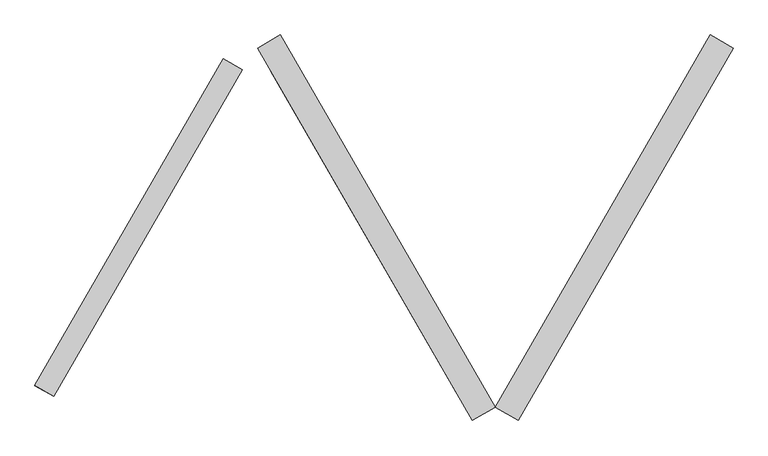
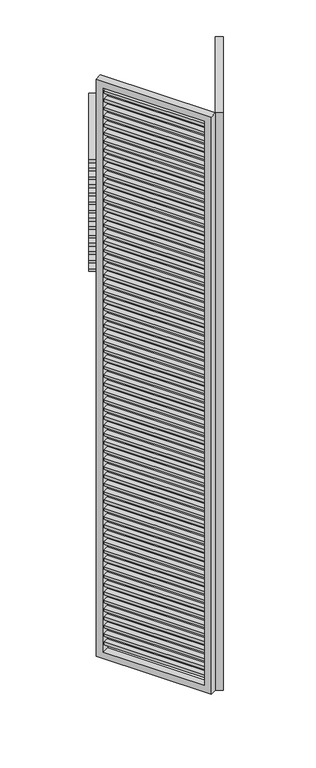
"""IFC4 building model written with IfcOpenShell, lengths in millimetres: proxy geometry, Renson_Amani_Loggia_Plano_Folding : Renson_Amani_Loggia_Plano_Folding."""

from ifc_helpers import new_model, si_unit, frame, origin, place, context, project, spatial, polyline, outline, extrude, source, transform, mapped, element, save


def generic_models_d322cddd(model_context):
    return source(origin(), model_context, "Body", "SweptSolid", [
        extrude(outline(polyline([(1386.6721051, 546.5254963), (1415.2509434, 530.0254963), (1130.2509434, 36.3910162), (1101.6721051, 52.8910162), (1386.6721051, 546.5254963)])), frame((0.0, 0.0, 3127.0), z_axis=(0.0, 0.0, 1.0), x_axis=(1.0, 0.0, 0.0)), (0.0, 0.0, 1.0), 16.0),
        extrude(outline(polyline([(1386.6721051, 546.5254963), (1415.2509434, 530.0254963), (1130.2509434, 36.3910162), (1101.6721051, 52.8910162), (1386.6721051, 546.5254963)])), frame((0.0, 0.0, 3077.0), z_axis=(0.0, 0.0, 1.0), x_axis=(1.0, 0.0, 0.0)), (0.0, 0.0, 1.0), 16.0),
        extrude(outline(polyline([(1386.6721051, 546.5254963), (1415.2509434, 530.0254963), (1130.2509434, 36.3910162), (1101.6721051, 52.8910162), (1386.6721051, 546.5254963)])), frame((0.0, 0.0, 3027.0), z_axis=(0.0, 0.0, 1.0), x_axis=(1.0, 0.0, 0.0)), (0.0, 0.0, 1.0), 16.0),
        extrude(outline(polyline([(1386.6721051, 546.5254963), (1415.2509434, 530.0254963), (1130.2509434, 36.3910162), (1101.6721051, 52.8910162), (1386.6721051, 546.5254963)])), frame((0.0, 0.0, 2977.0), z_axis=(0.0, 0.0, 1.0), x_axis=(1.0, 0.0, 0.0)), (0.0, 0.0, 1.0), 16.0),
        extrude(outline(polyline([(1386.6721051, 546.5254963), (1415.2509434, 530.0254963), (1130.2509434, 36.3910162), (1101.6721051, 52.8910162), (1386.6721051, 546.5254963)])), frame((0.0, 0.0, 2927.0), z_axis=(0.0, 0.0, 1.0), x_axis=(1.0, 0.0, 0.0)), (0.0, 0.0, 1.0), 16.0),
        extrude(outline(polyline([(1386.6721051, 546.5254963), (1415.2509434, 530.0254963), (1130.2509434, 36.3910162), (1101.6721051, 52.8910162), (1386.6721051, 546.5254963)])), frame((0.0, 0.0, 2877.0), z_axis=(0.0, 0.0, 1.0), x_axis=(1.0, 0.0, 0.0)), (0.0, 0.0, 1.0), 16.0),
        extrude(outline(polyline([(1386.6721051, 546.5254963), (1415.2509434, 530.0254963), (1130.2509434, 36.3910162), (1101.6721051, 52.8910162), (1386.6721051, 546.5254963)])), frame((0.0, 0.0, 2827.0), z_axis=(0.0, 0.0, 1.0), x_axis=(1.0, 0.0, 0.0)), (0.0, 0.0, 1.0), 16.0),
        extrude(outline(polyline([(1386.6721051, 546.5254963), (1415.2509434, 530.0254963), (1130.2509434, 36.3910162), (1101.6721051, 52.8910162), (1386.6721051, 546.5254963)])), frame((0.0, 0.0, 2777.0), z_axis=(0.0, 0.0, 1.0), x_axis=(1.0, 0.0, 0.0)), (0.0, 0.0, 1.0), 16.0),
        extrude(outline(polyline([(1386.6721051, 546.5254963), (1415.2509434, 530.0254963), (1130.2509434, 36.3910162), (1101.6721051, 52.8910162), (1386.6721051, 546.5254963)])), frame((0.0, 0.0, 2727.0), z_axis=(0.0, 0.0, 1.0), x_axis=(1.0, 0.0, 0.0)), (0.0, 0.0, 1.0), 16.0),
        extrude(outline(polyline([(1386.6721051, 546.5254963), (1415.2509434, 530.0254963), (1130.2509434, 36.3910162), (1101.6721051, 52.8910162), (1386.6721051, 546.5254963)])), frame((0.0, 0.0, 2677.0), z_axis=(0.0, 0.0, 1.0), x_axis=(1.0, 0.0, 0.0)), (0.0, 0.0, 1.0), 16.0),
        extrude(outline(polyline([(1386.6721051, 546.5254963), (1415.2509434, 530.0254963), (1130.2509434, 36.3910162), (1101.6721051, 52.8910162), (1386.6721051, 546.5254963)])), frame((0.0, 0.0, 2627.0), z_axis=(0.0, 0.0, 1.0), x_axis=(1.0, 0.0, 0.0)), (0.0, 0.0, 1.0), 16.0),
        extrude(outline(polyline([(1386.6721051, 546.5254963), (1415.2509434, 530.0254963), (1130.2509434, 36.3910162), (1101.6721051, 52.8910162), (1386.6721051, 546.5254963)])), frame((0.0, 0.0, 2577.0), z_axis=(0.0, 0.0, 1.0), x_axis=(1.0, 0.0, 0.0)), (0.0, 0.0, 1.0), 16.0),
        extrude(outline(polyline([(1386.6721051, 546.5254963), (1415.2509434, 530.0254963), (1130.2509434, 36.3910162), (1101.6721051, 52.8910162), (1386.6721051, 546.5254963)])), frame((0.0, 0.0, 2527.0), z_axis=(0.0, 0.0, 1.0), x_axis=(1.0, 0.0, 0.0)), (0.0, 0.0, 1.0), 16.0),
        extrude(outline(polyline([(1386.6721051, 546.5254963), (1415.2509434, 530.0254963), (1130.2509434, 36.3910162), (1101.6721051, 52.8910162), (1386.6721051, 546.5254963)])), frame((0.0, 0.0, 2477.0), z_axis=(0.0, 0.0, 1.0), x_axis=(1.0, 0.0, 0.0)), (0.0, 0.0, 1.0), 16.0),
        extrude(outline(polyline([(1386.6721051, 546.5254963), (1415.2509434, 530.0254963), (1130.2509434, 36.3910162), (1101.6721051, 52.8910162), (1386.6721051, 546.5254963)])), frame((0.0, 0.0, 2427.0), z_axis=(0.0, 0.0, 1.0), x_axis=(1.0, 0.0, 0.0)), (0.0, 0.0, 1.0), 16.0),
        extrude(outline(polyline([(1386.6721051, 546.5254963), (1415.2509434, 530.0254963), (1130.2509434, 36.3910162), (1101.6721051, 52.8910162), (1386.6721051, 546.5254963)])), frame((0.0, 0.0, 2377.0), z_axis=(0.0, 0.0, 1.0), x_axis=(1.0, 0.0, 0.0)), (0.0, 0.0, 1.0), 16.0),
        extrude(outline(polyline([(1386.6721051, 546.5254963), (1415.2509434, 530.0254963), (1130.2509434, 36.3910162), (1101.6721051, 52.8910162), (1386.6721051, 546.5254963)])), frame((0.0, 0.0, 2327.0), z_axis=(0.0, 0.0, 1.0), x_axis=(1.0, 0.0, 0.0)), (0.0, 0.0, 1.0), 16.0),
        extrude(outline(polyline([(1386.6721051, 546.5254963), (1415.2509434, 530.0254963), (1130.2509434, 36.3910162), (1101.6721051, 52.8910162), (1386.6721051, 546.5254963)])), frame((0.0, 0.0, 2277.0), z_axis=(0.0, 0.0, 1.0), x_axis=(1.0, 0.0, 0.0)), (0.0, 0.0, 1.0), 16.0),
        extrude(outline(polyline([(1386.6721051, 546.5254963), (1415.2509434, 530.0254963), (1130.2509434, 36.3910162), (1101.6721051, 52.8910162), (1386.6721051, 546.5254963)])), frame((0.0, 0.0, 2227.0), z_axis=(0.0, 0.0, 1.0), x_axis=(1.0, 0.0, 0.0)), (0.0, 0.0, 1.0), 16.0),
        extrude(outline(polyline([(1386.6721051, 546.5254963), (1415.2509434, 530.0254963), (1130.2509434, 36.3910162), (1101.6721051, 52.8910162), (1386.6721051, 546.5254963)])), frame((0.0, 0.0, 2177.0), z_axis=(0.0, 0.0, 1.0), x_axis=(1.0, 0.0, 0.0)), (0.0, 0.0, 1.0), 16.0),
        extrude(outline(polyline([(1386.6721051, 546.5254963), (1415.2509434, 530.0254963), (1130.2509434, 36.3910162), (1101.6721051, 52.8910162), (1386.6721051, 546.5254963)])), frame((0.0, 0.0, 2127.0), z_axis=(0.0, 0.0, 1.0), x_axis=(1.0, 0.0, 0.0)), (0.0, 0.0, 1.0), 16.0),
        extrude(outline(polyline([(1386.6721051, 546.5254963), (1415.2509434, 530.0254963), (1130.2509434, 36.3910162), (1101.6721051, 52.8910162), (1386.6721051, 546.5254963)])), frame((0.0, 0.0, 2077.0), z_axis=(0.0, 0.0, 1.0), x_axis=(1.0, 0.0, 0.0)), (0.0, 0.0, 1.0), 16.0),
        extrude(outline(polyline([(1386.6721051, 546.5254963), (1415.2509434, 530.0254963), (1130.2509434, 36.3910162), (1101.6721051, 52.8910162), (1386.6721051, 546.5254963)])), frame((0.0, 0.0, 2027.0), z_axis=(0.0, 0.0, 1.0), x_axis=(1.0, 0.0, 0.0)), (0.0, 0.0, 1.0), 16.0),
        extrude(outline(polyline([(1386.6721051, 546.5254963), (1415.2509434, 530.0254963), (1130.2509434, 36.3910162), (1101.6721051, 52.8910162), (1386.6721051, 546.5254963)])), frame((0.0, 0.0, 1977.0), z_axis=(0.0, 0.0, 1.0), x_axis=(1.0, 0.0, 0.0)), (0.0, 0.0, 1.0), 16.0),
        extrude(outline(polyline([(1386.6721051, 546.5254963), (1415.2509434, 530.0254963), (1130.2509434, 36.3910162), (1101.6721051, 52.8910162), (1386.6721051, 546.5254963)])), frame((0.0, 0.0, 1927.0), z_axis=(0.0, 0.0, 1.0), x_axis=(1.0, 0.0, 0.0)), (0.0, 0.0, 1.0), 16.0),
        extrude(outline(polyline([(1386.6721051, 546.5254963), (1415.2509434, 530.0254963), (1130.2509434, 36.3910162), (1101.6721051, 52.8910162), (1386.6721051, 546.5254963)])), frame((0.0, 0.0, 1877.0), z_axis=(0.0, 0.0, 1.0), x_axis=(1.0, 0.0, 0.0)), (0.0, 0.0, 1.0), 16.0),
        extrude(outline(polyline([(1386.6721051, 546.5254963), (1415.2509434, 530.0254963), (1130.2509434, 36.3910162), (1101.6721051, 52.8910162), (1386.6721051, 546.5254963)])), frame((0.0, 0.0, 1827.0), z_axis=(0.0, 0.0, 1.0), x_axis=(1.0, 0.0, 0.0)), (0.0, 0.0, 1.0), 16.0),
        extrude(outline(polyline([(1386.6721051, 546.5254963), (1415.2509434, 530.0254963), (1130.2509434, 36.3910162), (1101.6721051, 52.8910162), (1386.6721051, 546.5254963)])), frame((0.0, 0.0, 1777.0), z_axis=(0.0, 0.0, 1.0), x_axis=(1.0, 0.0, 0.0)), (0.0, 0.0, 1.0), 16.0),
        extrude(outline(polyline([(1386.6721051, 546.5254963), (1415.2509434, 530.0254963), (1130.2509434, 36.3910162), (1101.6721051, 52.8910162), (1386.6721051, 546.5254963)])), frame((0.0, 0.0, 1727.0), z_axis=(0.0, 0.0, 1.0), x_axis=(1.0, 0.0, 0.0)), (0.0, 0.0, 1.0), 16.0),
        extrude(outline(polyline([(1386.6721051, 546.5254963), (1415.2509434, 530.0254963), (1130.2509434, 36.3910162), (1101.6721051, 52.8910162), (1386.6721051, 546.5254963)])), frame((0.0, 0.0, 1677.0), z_axis=(0.0, 0.0, 1.0), x_axis=(1.0, 0.0, 0.0)), (0.0, 0.0, 1.0), 16.0),
        extrude(outline(polyline([(1386.6721051, 546.5254963), (1415.2509434, 530.0254963), (1130.2509434, 36.3910162), (1101.6721051, 52.8910162), (1386.6721051, 546.5254963)])), frame((0.0, 0.0, 1627.0), z_axis=(0.0, 0.0, 1.0), x_axis=(1.0, 0.0, 0.0)), (0.0, 0.0, 1.0), 16.0),
        extrude(outline(polyline([(1386.6721051, 546.5254963), (1415.2509434, 530.0254963), (1130.2509434, 36.3910162), (1101.6721051, 52.8910162), (1386.6721051, 546.5254963)])), frame((0.0, 0.0, 1577.0), z_axis=(0.0, 0.0, 1.0), x_axis=(1.0, 0.0, 0.0)), (0.0, 0.0, 1.0), 16.0),
        extrude(outline(polyline([(1386.6721051, 546.5254963), (1415.2509434, 530.0254963), (1130.2509434, 36.3910162), (1101.6721051, 52.8910162), (1386.6721051, 546.5254963)])), frame((0.0, 0.0, 1527.0), z_axis=(0.0, 0.0, 1.0), x_axis=(1.0, 0.0, 0.0)), (0.0, 0.0, 1.0), 16.0),
        extrude(outline(polyline([(1386.6721051, 546.5254963), (1415.2509434, 530.0254963), (1130.2509434, 36.3910162), (1101.6721051, 52.8910162), (1386.6721051, 546.5254963)])), frame((0.0, 0.0, 1477.0), z_axis=(0.0, 0.0, 1.0), x_axis=(1.0, 0.0, 0.0)), (0.0, 0.0, 1.0), 16.0),
        extrude(outline(polyline([(1386.6721051, 546.5254963), (1415.2509434, 530.0254963), (1130.2509434, 36.3910162), (1101.6721051, 52.8910162), (1386.6721051, 546.5254963)])), frame((0.0, 0.0, 1427.0), z_axis=(0.0, 0.0, 1.0), x_axis=(1.0, 0.0, 0.0)), (0.0, 0.0, 1.0), 16.0),
        extrude(outline(polyline([(1386.6721051, 546.5254963), (1415.2509434, 530.0254963), (1130.2509434, 36.3910162), (1101.6721051, 52.8910162), (1386.6721051, 546.5254963)])), frame((0.0, 0.0, 1377.0), z_axis=(0.0, 0.0, 1.0), x_axis=(1.0, 0.0, 0.0)), (0.0, 0.0, 1.0), 16.0),
        extrude(outline(polyline([(1386.6721051, 546.5254963), (1415.2509434, 530.0254963), (1130.2509434, 36.3910162), (1101.6721051, 52.8910162), (1386.6721051, 546.5254963)])), frame((0.0, 0.0, 1327.0), z_axis=(0.0, 0.0, 1.0), x_axis=(1.0, 0.0, 0.0)), (0.0, 0.0, 1.0), 16.0),
        extrude(outline(polyline([(1386.6721051, 546.5254963), (1415.2509434, 530.0254963), (1130.2509434, 36.3910162), (1101.6721051, 52.8910162), (1386.6721051, 546.5254963)])), frame((0.0, 0.0, 1277.0), z_axis=(0.0, 0.0, 1.0), x_axis=(1.0, 0.0, 0.0)), (0.0, 0.0, 1.0), 16.0),
        extrude(outline(polyline([(1386.6721051, 546.5254963), (1415.2509434, 530.0254963), (1130.2509434, 36.3910162), (1101.6721051, 52.8910162), (1386.6721051, 546.5254963)])), frame((0.0, 0.0, 1227.0), z_axis=(0.0, 0.0, 1.0), x_axis=(1.0, 0.0, 0.0)), (0.0, 0.0, 1.0), 16.0),
        extrude(outline(polyline([(1386.6721051, 546.5254963), (1415.2509434, 530.0254963), (1130.2509434, 36.3910162), (1101.6721051, 52.8910162), (1386.6721051, 546.5254963)])), frame((0.0, 0.0, 1177.0), z_axis=(0.0, 0.0, 1.0), x_axis=(1.0, 0.0, 0.0)), (0.0, 0.0, 1.0), 16.0),
        extrude(outline(polyline([(1386.6721051, 546.5254963), (1415.2509434, 530.0254963), (1130.2509434, 36.3910162), (1101.6721051, 52.8910162), (1386.6721051, 546.5254963)])), frame((0.0, 0.0, 1127.0), z_axis=(0.0, 0.0, 1.0), x_axis=(1.0, 0.0, 0.0)), (0.0, 0.0, 1.0), 16.0),
        extrude(outline(polyline([(1386.6721051, 546.5254963), (1415.2509434, 530.0254963), (1130.2509434, 36.3910162), (1101.6721051, 52.8910162), (1386.6721051, 546.5254963)])), frame((0.0, 0.0, 1077.0), z_axis=(0.0, 0.0, 1.0), x_axis=(1.0, 0.0, 0.0)), (0.0, 0.0, 1.0), 16.0),
        extrude(outline(polyline([(1386.6721051, 546.5254963), (1415.2509434, 530.0254963), (1130.2509434, 36.3910162), (1101.6721051, 52.8910162), (1386.6721051, 546.5254963)])), frame((0.0, 0.0, 1027.0), z_axis=(0.0, 0.0, 1.0), x_axis=(1.0, 0.0, 0.0)), (0.0, 0.0, 1.0), 16.0),
        extrude(outline(polyline([(1386.6721051, 546.5254963), (1415.2509434, 530.0254963), (1130.2509434, 36.3910162), (1101.6721051, 52.8910162), (1386.6721051, 546.5254963)])), frame((0.0, 0.0, 977.0), z_axis=(0.0, 0.0, 1.0), x_axis=(1.0, 0.0, 0.0)), (0.0, 0.0, 1.0), 16.0),
        extrude(outline(polyline([(1386.6721051, 546.5254963), (1415.2509434, 530.0254963), (1130.2509434, 36.3910162), (1101.6721051, 52.8910162), (1386.6721051, 546.5254963)])), frame((0.0, 0.0, 927.0), z_axis=(0.0, 0.0, 1.0), x_axis=(1.0, 0.0, 0.0)), (0.0, 0.0, 1.0), 16.0),
        extrude(outline(polyline([(1386.6721051, 546.5254963), (1415.2509434, 530.0254963), (1130.2509434, 36.3910162), (1101.6721051, 52.8910162), (1386.6721051, 546.5254963)])), frame((0.0, 0.0, 877.0), z_axis=(0.0, 0.0, 1.0), x_axis=(1.0, 0.0, 0.0)), (0.0, 0.0, 1.0), 16.0),
        extrude(outline(polyline([(1386.6721051, 546.5254963), (1415.2509434, 530.0254963), (1130.2509434, 36.3910162), (1101.6721051, 52.8910162), (1386.6721051, 546.5254963)])), frame((0.0, 0.0, 827.0), z_axis=(0.0, 0.0, 1.0), x_axis=(1.0, 0.0, 0.0)), (0.0, 0.0, 1.0), 16.0),
        extrude(outline(polyline([(1386.6721051, 546.5254963), (1415.2509434, 530.0254963), (1130.2509434, 36.3910162), (1101.6721051, 52.8910162), (1386.6721051, 546.5254963)])), frame((0.0, 0.0, 777.0), z_axis=(0.0, 0.0, 1.0), x_axis=(1.0, 0.0, 0.0)), (0.0, 0.0, 1.0), 16.0),
        extrude(outline(polyline([(1386.6721051, 546.5254963), (1415.2509434, 530.0254963), (1130.2509434, 36.3910162), (1101.6721051, 52.8910162), (1386.6721051, 546.5254963)])), frame((0.0, 0.0, 727.0), z_axis=(0.0, 0.0, 1.0), x_axis=(1.0, 0.0, 0.0)), (0.0, 0.0, 1.0), 16.0),
        extrude(outline(polyline([(1386.6721051, 546.5254963), (1415.2509434, 530.0254963), (1130.2509434, 36.3910162), (1101.6721051, 52.8910162), (1386.6721051, 546.5254963)])), frame((0.0, 0.0, 677.0), z_axis=(0.0, 0.0, 1.0), x_axis=(1.0, 0.0, 0.0)), (0.0, 0.0, 1.0), 16.0),
        extrude(outline(polyline([(1386.6721051, 546.5254963), (1415.2509434, 530.0254963), (1130.2509434, 36.3910162), (1101.6721051, 52.8910162), (1386.6721051, 546.5254963)])), frame((0.0, 0.0, 627.0), z_axis=(0.0, 0.0, 1.0), x_axis=(1.0, 0.0, 0.0)), (0.0, 0.0, 1.0), 16.0),
        extrude(outline(polyline([(1386.6721051, 546.5254963), (1415.2509434, 530.0254963), (1130.2509434, 36.3910162), (1101.6721051, 52.8910162), (1386.6721051, 546.5254963)])), frame((0.0, 0.0, 577.0), z_axis=(0.0, 0.0, 1.0), x_axis=(1.0, 0.0, 0.0)), (0.0, 0.0, 1.0), 16.0),
        extrude(outline(polyline([(1386.6721051, 546.5254963), (1415.2509434, 530.0254963), (1130.2509434, 36.3910162), (1101.6721051, 52.8910162), (1386.6721051, 546.5254963)])), frame((0.0, 0.0, 527.0), z_axis=(0.0, 0.0, 1.0), x_axis=(1.0, 0.0, 0.0)), (0.0, 0.0, 1.0), 16.0),
        extrude(outline(polyline([(1386.6721051, 546.5254963), (1415.2509434, 530.0254963), (1130.2509434, 36.3910162), (1101.6721051, 52.8910162), (1386.6721051, 546.5254963)])), frame((0.0, 0.0, 477.0), z_axis=(0.0, 0.0, 1.0), x_axis=(1.0, 0.0, 0.0)), (0.0, 0.0, 1.0), 16.0),
        extrude(outline(polyline([(1386.6721051, 546.5254963), (1415.2509434, 530.0254963), (1130.2509434, 36.3910162), (1101.6721051, 52.8910162), (1386.6721051, 546.5254963)])), frame((0.0, 0.0, 427.0), z_axis=(0.0, 0.0, 1.0), x_axis=(1.0, 0.0, 0.0)), (0.0, 0.0, 1.0), 16.0),
        extrude(outline(polyline([(1386.6721051, 546.5254963), (1415.2509434, 530.0254963), (1130.2509434, 36.3910162), (1101.6721051, 52.8910162), (1386.6721051, 546.5254963)])), frame((0.0, 0.0, 377.0), z_axis=(0.0, 0.0, 1.0), x_axis=(1.0, 0.0, 0.0)), (0.0, 0.0, 1.0), 16.0),
        extrude(outline(polyline([(1386.6721051, 546.5254963), (1415.2509434, 530.0254963), (1130.2509434, 36.3910162), (1101.6721051, 52.8910162), (1386.6721051, 546.5254963)])), frame((0.0, 0.0, 327.0), z_axis=(0.0, 0.0, 1.0), x_axis=(1.0, 0.0, 0.0)), (0.0, 0.0, 1.0), 16.0),
        extrude(outline(polyline([(1386.6721051, 546.5254963), (1415.2509434, 530.0254963), (1130.2509434, 36.3910162), (1101.6721051, 52.8910162), (1386.6721051, 546.5254963)])), frame((0.0, 0.0, 277.0), z_axis=(0.0, 0.0, 1.0), x_axis=(1.0, 0.0, 0.0)), (0.0, 0.0, 1.0), 16.0),
        extrude(outline(polyline([(1386.6721051, 546.5254963), (1415.2509434, 530.0254963), (1130.2509434, 36.3910162), (1101.6721051, 52.8910162), (1386.6721051, 546.5254963)])), frame((0.0, 0.0, 227.0), z_axis=(0.0, 0.0, 1.0), x_axis=(1.0, 0.0, 0.0)), (0.0, 0.0, 1.0), 16.0),
        extrude(outline(polyline([(1386.6721051, 546.5254963), (1415.2509434, 530.0254963), (1130.2509434, 36.3910162), (1101.6721051, 52.8910162), (1386.6721051, 546.5254963)])), frame((0.0, 0.0, 177.0), z_axis=(0.0, 0.0, 1.0), x_axis=(1.0, 0.0, 0.0)), (0.0, 0.0, 1.0), 16.0),
        extrude(outline(polyline([(1386.6721051, 546.5254963), (1415.2509434, 530.0254963), (1130.2509434, 36.3910162), (1101.6721051, 52.8910162), (1386.6721051, 546.5254963)])), frame((0.0, 0.0, 127.0), z_axis=(0.0, 0.0, 1.0), x_axis=(1.0, 0.0, 0.0)), (0.0, 0.0, 1.0), 16.0),
        extrude(outline(polyline([(3415.0, -40.0), (-40.0, -40.0), (-40.0, 610.0), (3415.0, 610.0), (3415.0, -40.0)]), holes=[polyline([(3375.0, 570.0), (0.0, 570.0), (0.0, 0.0), (3375.0, 0.0), (3375.0, 570.0)])]), frame((1133.2820323, 34.6410162, 85.0), z_axis=(-0.8660254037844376, 0.5000000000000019, 0.0), x_axis=(0.0, 0.0, 1.0)), (0.0, 0.0, 1.0), 40.0),
        extrude(outline(polyline([(1055.8919595, 52.8910162), (1027.3131212, 36.3910162), (742.3131212, 530.0254963), (770.8919595, 546.5254963), (1055.8919595, 52.8910162)])), frame((0.0, 0.0, 3427.0), z_axis=(0.0, 0.0, 1.0), x_axis=(1.0, 0.0, 0.0)), (0.0, 0.0, 1.0), 16.0),
        extrude(outline(polyline([(1055.8919595, 52.8910162), (1027.3131212, 36.3910162), (742.3131212, 530.0254963), (770.8919595, 546.5254963), (1055.8919595, 52.8910162)])), frame((0.0, 0.0, 3377.0), z_axis=(0.0, 0.0, 1.0), x_axis=(1.0, 0.0, 0.0)), (0.0, 0.0, 1.0), 16.0),
        extrude(outline(polyline([(1055.8919595, 52.8910162), (1027.3131212, 36.3910162), (742.3131212, 530.0254963), (770.8919595, 546.5254963), (1055.8919595, 52.8910162)])), frame((0.0, 0.0, 3327.0), z_axis=(0.0, 0.0, 1.0), x_axis=(1.0, 0.0, 0.0)), (0.0, 0.0, 1.0), 16.0),
        extrude(outline(polyline([(1055.8919595, 52.8910162), (1027.3131212, 36.3910162), (742.3131212, 530.0254963), (770.8919595, 546.5254963), (1055.8919595, 52.8910162)])), frame((0.0, 0.0, 3277.0), z_axis=(0.0, 0.0, 1.0), x_axis=(1.0, 0.0, 0.0)), (0.0, 0.0, 1.0), 16.0),
        extrude(outline(polyline([(1055.8919595, 52.8910162), (1027.3131212, 36.3910162), (742.3131212, 530.0254963), (770.8919595, 546.5254963), (1055.8919595, 52.8910162)])), frame((0.0, 0.0, 3227.0), z_axis=(0.0, 0.0, 1.0), x_axis=(1.0, 0.0, 0.0)), (0.0, 0.0, 1.0), 16.0),
        extrude(outline(polyline([(1055.8919595, 52.8910162), (1027.3131212, 36.3910162), (742.3131212, 530.0254963), (770.8919595, 546.5254963), (1055.8919595, 52.8910162)])), frame((0.0, 0.0, 3177.0), z_axis=(0.0, 0.0, 1.0), x_axis=(1.0, 0.0, 0.0)), (0.0, 0.0, 1.0), 16.0),
        extrude(outline(polyline([(1055.8919595, 52.8910162), (1027.3131212, 36.3910162), (742.3131212, 530.0254963), (770.8919595, 546.5254963), (1055.8919595, 52.8910162)])), frame((0.0, 0.0, 3127.0), z_axis=(0.0, 0.0, 1.0), x_axis=(1.0, 0.0, 0.0)), (0.0, 0.0, 1.0), 16.0),
        extrude(outline(polyline([(1055.8919595, 52.8910162), (1027.3131212, 36.3910162), (742.3131212, 530.0254963), (770.8919595, 546.5254963), (1055.8919595, 52.8910162)])), frame((0.0, 0.0, 3077.0), z_axis=(0.0, 0.0, 1.0), x_axis=(1.0, 0.0, 0.0)), (0.0, 0.0, 1.0), 16.0),
        extrude(outline(polyline([(1055.8919595, 52.8910162), (1027.3131212, 36.3910162), (742.3131212, 530.0254963), (770.8919595, 546.5254963), (1055.8919595, 52.8910162)])), frame((0.0, 0.0, 3027.0), z_axis=(0.0, 0.0, 1.0), x_axis=(1.0, 0.0, 0.0)), (0.0, 0.0, 1.0), 16.0),
        extrude(outline(polyline([(1055.8919595, 52.8910162), (1027.3131212, 36.3910162), (742.3131212, 530.0254963), (770.8919595, 546.5254963), (1055.8919595, 52.8910162)])), frame((0.0, 0.0, 2977.0), z_axis=(0.0, 0.0, 1.0), x_axis=(1.0, 0.0, 0.0)), (0.0, 0.0, 1.0), 16.0),
        extrude(outline(polyline([(1055.8919595, 52.8910162), (1027.3131212, 36.3910162), (742.3131212, 530.0254963), (770.8919595, 546.5254963), (1055.8919595, 52.8910162)])), frame((0.0, 0.0, 2927.0), z_axis=(0.0, 0.0, 1.0), x_axis=(1.0, 0.0, 0.0)), (0.0, 0.0, 1.0), 16.0),
        extrude(outline(polyline([(1055.8919595, 52.8910162), (1027.3131212, 36.3910162), (742.3131212, 530.0254963), (770.8919595, 546.5254963), (1055.8919595, 52.8910162)])), frame((0.0, 0.0, 2877.0), z_axis=(0.0, 0.0, 1.0), x_axis=(1.0, 0.0, 0.0)), (0.0, 0.0, 1.0), 16.0),
        extrude(outline(polyline([(1055.8919595, 52.8910162), (1027.3131212, 36.3910162), (742.3131212, 530.0254963), (770.8919595, 546.5254963), (1055.8919595, 52.8910162)])), frame((0.0, 0.0, 2827.0), z_axis=(0.0, 0.0, 1.0), x_axis=(1.0, 0.0, 0.0)), (0.0, 0.0, 1.0), 16.0),
        extrude(outline(polyline([(1055.8919595, 52.8910162), (1027.3131212, 36.3910162), (742.3131212, 530.0254963), (770.8919595, 546.5254963), (1055.8919595, 52.8910162)])), frame((0.0, 0.0, 2777.0), z_axis=(0.0, 0.0, 1.0), x_axis=(1.0, 0.0, 0.0)), (0.0, 0.0, 1.0), 16.0),
        extrude(outline(polyline([(1055.8919595, 52.8910162), (1027.3131212, 36.3910162), (742.3131212, 530.0254963), (770.8919595, 546.5254963), (1055.8919595, 52.8910162)])), frame((0.0, 0.0, 2727.0), z_axis=(0.0, 0.0, 1.0), x_axis=(1.0, 0.0, 0.0)), (0.0, 0.0, 1.0), 16.0),
        extrude(outline(polyline([(1055.8919595, 52.8910162), (1027.3131212, 36.3910162), (742.3131212, 530.0254963), (770.8919595, 546.5254963), (1055.8919595, 52.8910162)])), frame((0.0, 0.0, 2677.0), z_axis=(0.0, 0.0, 1.0), x_axis=(1.0, 0.0, 0.0)), (0.0, 0.0, 1.0), 16.0),
        extrude(outline(polyline([(1055.8919595, 52.8910162), (1027.3131212, 36.3910162), (742.3131212, 530.0254963), (770.8919595, 546.5254963), (1055.8919595, 52.8910162)])), frame((0.0, 0.0, 2627.0), z_axis=(0.0, 0.0, 1.0), x_axis=(1.0, 0.0, 0.0)), (0.0, 0.0, 1.0), 16.0),
        extrude(outline(polyline([(1055.8919595, 52.8910162), (1027.3131212, 36.3910162), (742.3131212, 530.0254963), (770.8919595, 546.5254963), (1055.8919595, 52.8910162)])), frame((0.0, 0.0, 2577.0), z_axis=(0.0, 0.0, 1.0), x_axis=(1.0, 0.0, 0.0)), (0.0, 0.0, 1.0), 16.0),
        extrude(outline(polyline([(1055.8919595, 52.8910162), (1027.3131212, 36.3910162), (742.3131212, 530.0254963), (770.8919595, 546.5254963), (1055.8919595, 52.8910162)])), frame((0.0, 0.0, 2527.0), z_axis=(0.0, 0.0, 1.0), x_axis=(1.0, 0.0, 0.0)), (0.0, 0.0, 1.0), 16.0),
        extrude(outline(polyline([(1055.8919595, 52.8910162), (1027.3131212, 36.3910162), (742.3131212, 530.0254963), (770.8919595, 546.5254963), (1055.8919595, 52.8910162)])), frame((0.0, 0.0, 2477.0), z_axis=(0.0, 0.0, 1.0), x_axis=(1.0, 0.0, 0.0)), (0.0, 0.0, 1.0), 16.0),
        extrude(outline(polyline([(1055.8919595, 52.8910162), (1027.3131212, 36.3910162), (742.3131212, 530.0254963), (770.8919595, 546.5254963), (1055.8919595, 52.8910162)])), frame((0.0, 0.0, 2427.0), z_axis=(0.0, 0.0, 1.0), x_axis=(1.0, 0.0, 0.0)), (0.0, 0.0, 1.0), 16.0),
        extrude(outline(polyline([(1055.8919595, 52.8910162), (1027.3131212, 36.3910162), (742.3131212, 530.0254963), (770.8919595, 546.5254963), (1055.8919595, 52.8910162)])), frame((0.0, 0.0, 2377.0), z_axis=(0.0, 0.0, 1.0), x_axis=(1.0, 0.0, 0.0)), (0.0, 0.0, 1.0), 16.0),
        extrude(outline(polyline([(1055.8919595, 52.8910162), (1027.3131212, 36.3910162), (742.3131212, 530.0254963), (770.8919595, 546.5254963), (1055.8919595, 52.8910162)])), frame((0.0, 0.0, 2327.0), z_axis=(0.0, 0.0, 1.0), x_axis=(1.0, 0.0, 0.0)), (0.0, 0.0, 1.0), 16.0),
        extrude(outline(polyline([(1055.8919595, 52.8910162), (1027.3131212, 36.3910162), (742.3131212, 530.0254963), (770.8919595, 546.5254963), (1055.8919595, 52.8910162)])), frame((0.0, 0.0, 2277.0), z_axis=(0.0, 0.0, 1.0), x_axis=(1.0, 0.0, 0.0)), (0.0, 0.0, 1.0), 16.0),
        extrude(outline(polyline([(1055.8919595, 52.8910162), (1027.3131212, 36.3910162), (742.3131212, 530.0254963), (770.8919595, 546.5254963), (1055.8919595, 52.8910162)])), frame((0.0, 0.0, 2227.0), z_axis=(0.0, 0.0, 1.0), x_axis=(1.0, 0.0, 0.0)), (0.0, 0.0, 1.0), 16.0),
        extrude(outline(polyline([(1055.8919595, 52.8910162), (1027.3131212, 36.3910162), (742.3131212, 530.0254963), (770.8919595, 546.5254963), (1055.8919595, 52.8910162)])), frame((0.0, 0.0, 2177.0), z_axis=(0.0, 0.0, 1.0), x_axis=(1.0, 0.0, 0.0)), (0.0, 0.0, 1.0), 16.0),
        extrude(outline(polyline([(1055.8919595, 52.8910162), (1027.3131212, 36.3910162), (742.3131212, 530.0254963), (770.8919595, 546.5254963), (1055.8919595, 52.8910162)])), frame((0.0, 0.0, 2127.0), z_axis=(0.0, 0.0, 1.0), x_axis=(1.0, 0.0, 0.0)), (0.0, 0.0, 1.0), 16.0),
        extrude(outline(polyline([(1055.8919595, 52.8910162), (1027.3131212, 36.3910162), (742.3131212, 530.0254963), (770.8919595, 546.5254963), (1055.8919595, 52.8910162)])), frame((0.0, 0.0, 2077.0), z_axis=(0.0, 0.0, 1.0), x_axis=(1.0, 0.0, 0.0)), (0.0, 0.0, 1.0), 16.0),
        extrude(outline(polyline([(1055.8919595, 52.8910162), (1027.3131212, 36.3910162), (742.3131212, 530.0254963), (770.8919595, 546.5254963), (1055.8919595, 52.8910162)])), frame((0.0, 0.0, 2027.0), z_axis=(0.0, 0.0, 1.0), x_axis=(1.0, 0.0, 0.0)), (0.0, 0.0, 1.0), 16.0),
        extrude(outline(polyline([(1055.8919595, 52.8910162), (1027.3131212, 36.3910162), (742.3131212, 530.0254963), (770.8919595, 546.5254963), (1055.8919595, 52.8910162)])), frame((0.0, 0.0, 1977.0), z_axis=(0.0, 0.0, 1.0), x_axis=(1.0, 0.0, 0.0)), (0.0, 0.0, 1.0), 16.0),
        extrude(outline(polyline([(1055.8919595, 52.8910162), (1027.3131212, 36.3910162), (742.3131212, 530.0254963), (770.8919595, 546.5254963), (1055.8919595, 52.8910162)])), frame((0.0, 0.0, 1927.0), z_axis=(0.0, 0.0, 1.0), x_axis=(1.0, 0.0, 0.0)), (0.0, 0.0, 1.0), 16.0),
        extrude(outline(polyline([(1055.8919595, 52.8910162), (1027.3131212, 36.3910162), (742.3131212, 530.0254963), (770.8919595, 546.5254963), (1055.8919595, 52.8910162)])), frame((0.0, 0.0, 1877.0), z_axis=(0.0, 0.0, 1.0), x_axis=(1.0, 0.0, 0.0)), (0.0, 0.0, 1.0), 16.0),
        extrude(outline(polyline([(1055.8919595, 52.8910162), (1027.3131212, 36.3910162), (742.3131212, 530.0254963), (770.8919595, 546.5254963), (1055.8919595, 52.8910162)])), frame((0.0, 0.0, 1827.0), z_axis=(0.0, 0.0, 1.0), x_axis=(1.0, 0.0, 0.0)), (0.0, 0.0, 1.0), 16.0),
        extrude(outline(polyline([(1055.8919595, 52.8910162), (1027.3131212, 36.3910162), (742.3131212, 530.0254963), (770.8919595, 546.5254963), (1055.8919595, 52.8910162)])), frame((0.0, 0.0, 1777.0), z_axis=(0.0, 0.0, 1.0), x_axis=(1.0, 0.0, 0.0)), (0.0, 0.0, 1.0), 16.0),
        extrude(outline(polyline([(1055.8919595, 52.8910162), (1027.3131212, 36.3910162), (742.3131212, 530.0254963), (770.8919595, 546.5254963), (1055.8919595, 52.8910162)])), frame((0.0, 0.0, 1727.0), z_axis=(0.0, 0.0, 1.0), x_axis=(1.0, 0.0, 0.0)), (0.0, 0.0, 1.0), 16.0),
        extrude(outline(polyline([(1055.8919595, 52.8910162), (1027.3131212, 36.3910162), (742.3131212, 530.0254963), (770.8919595, 546.5254963), (1055.8919595, 52.8910162)])), frame((0.0, 0.0, 1677.0), z_axis=(0.0, 0.0, 1.0), x_axis=(1.0, 0.0, 0.0)), (0.0, 0.0, 1.0), 16.0),
        extrude(outline(polyline([(1055.8919595, 52.8910162), (1027.3131212, 36.3910162), (742.3131212, 530.0254963), (770.8919595, 546.5254963), (1055.8919595, 52.8910162)])), frame((0.0, 0.0, 1627.0), z_axis=(0.0, 0.0, 1.0), x_axis=(1.0, 0.0, 0.0)), (0.0, 0.0, 1.0), 16.0),
        extrude(outline(polyline([(1055.8919595, 52.8910162), (1027.3131212, 36.3910162), (742.3131212, 530.0254963), (770.8919595, 546.5254963), (1055.8919595, 52.8910162)])), frame((0.0, 0.0, 1577.0), z_axis=(0.0, 0.0, 1.0), x_axis=(1.0, 0.0, 0.0)), (0.0, 0.0, 1.0), 16.0),
        extrude(outline(polyline([(1055.8919595, 52.8910162), (1027.3131212, 36.3910162), (742.3131212, 530.0254963), (770.8919595, 546.5254963), (1055.8919595, 52.8910162)])), frame((0.0, 0.0, 1527.0), z_axis=(0.0, 0.0, 1.0), x_axis=(1.0, 0.0, 0.0)), (0.0, 0.0, 1.0), 16.0),
        extrude(outline(polyline([(1055.8919595, 52.8910162), (1027.3131212, 36.3910162), (742.3131212, 530.0254963), (770.8919595, 546.5254963), (1055.8919595, 52.8910162)])), frame((0.0, 0.0, 1477.0), z_axis=(0.0, 0.0, 1.0), x_axis=(1.0, 0.0, 0.0)), (0.0, 0.0, 1.0), 16.0),
        extrude(outline(polyline([(1055.8919595, 52.8910162), (1027.3131212, 36.3910162), (742.3131212, 530.0254963), (770.8919595, 546.5254963), (1055.8919595, 52.8910162)])), frame((0.0, 0.0, 1427.0), z_axis=(0.0, 0.0, 1.0), x_axis=(1.0, 0.0, 0.0)), (0.0, 0.0, 1.0), 16.0),
        extrude(outline(polyline([(1055.8919595, 52.8910162), (1027.3131212, 36.3910162), (742.3131212, 530.0254963), (770.8919595, 546.5254963), (1055.8919595, 52.8910162)])), frame((0.0, 0.0, 1377.0), z_axis=(0.0, 0.0, 1.0), x_axis=(1.0, 0.0, 0.0)), (0.0, 0.0, 1.0), 16.0),
        extrude(outline(polyline([(1055.8919595, 52.8910162), (1027.3131212, 36.3910162), (742.3131212, 530.0254963), (770.8919595, 546.5254963), (1055.8919595, 52.8910162)])), frame((0.0, 0.0, 1327.0), z_axis=(0.0, 0.0, 1.0), x_axis=(1.0, 0.0, 0.0)), (0.0, 0.0, 1.0), 16.0),
        extrude(outline(polyline([(1055.8919595, 52.8910162), (1027.3131212, 36.3910162), (742.3131212, 530.0254963), (770.8919595, 546.5254963), (1055.8919595, 52.8910162)])), frame((0.0, 0.0, 1277.0), z_axis=(0.0, 0.0, 1.0), x_axis=(1.0, 0.0, 0.0)), (0.0, 0.0, 1.0), 16.0),
        extrude(outline(polyline([(1055.8919595, 52.8910162), (1027.3131212, 36.3910162), (742.3131212, 530.0254963), (770.8919595, 546.5254963), (1055.8919595, 52.8910162)])), frame((0.0, 0.0, 1227.0), z_axis=(0.0, 0.0, 1.0), x_axis=(1.0, 0.0, 0.0)), (0.0, 0.0, 1.0), 16.0),
        extrude(outline(polyline([(1055.8919595, 52.8910162), (1027.3131212, 36.3910162), (742.3131212, 530.0254963), (770.8919595, 546.5254963), (1055.8919595, 52.8910162)])), frame((0.0, 0.0, 1177.0), z_axis=(0.0, 0.0, 1.0), x_axis=(1.0, 0.0, 0.0)), (0.0, 0.0, 1.0), 16.0),
        extrude(outline(polyline([(1055.8919595, 52.8910162), (1027.3131212, 36.3910162), (742.3131212, 530.0254963), (770.8919595, 546.5254963), (1055.8919595, 52.8910162)])), frame((0.0, 0.0, 1127.0), z_axis=(0.0, 0.0, 1.0), x_axis=(1.0, 0.0, 0.0)), (0.0, 0.0, 1.0), 16.0),
        extrude(outline(polyline([(1055.8919595, 52.8910162), (1027.3131212, 36.3910162), (742.3131212, 530.0254963), (770.8919595, 546.5254963), (1055.8919595, 52.8910162)])), frame((0.0, 0.0, 1077.0), z_axis=(0.0, 0.0, 1.0), x_axis=(1.0, 0.0, 0.0)), (0.0, 0.0, 1.0), 16.0),
        extrude(outline(polyline([(1055.8919595, 52.8910162), (1027.3131212, 36.3910162), (742.3131212, 530.0254963), (770.8919595, 546.5254963), (1055.8919595, 52.8910162)])), frame((0.0, 0.0, 1027.0), z_axis=(0.0, 0.0, 1.0), x_axis=(1.0, 0.0, 0.0)), (0.0, 0.0, 1.0), 16.0),
        extrude(outline(polyline([(1055.8919595, 52.8910162), (1027.3131212, 36.3910162), (742.3131212, 530.0254963), (770.8919595, 546.5254963), (1055.8919595, 52.8910162)])), frame((0.0, 0.0, 977.0), z_axis=(0.0, 0.0, 1.0), x_axis=(1.0, 0.0, 0.0)), (0.0, 0.0, 1.0), 16.0),
        extrude(outline(polyline([(1055.8919595, 52.8910162), (1027.3131212, 36.3910162), (742.3131212, 530.0254963), (770.8919595, 546.5254963), (1055.8919595, 52.8910162)])), frame((0.0, 0.0, 927.0), z_axis=(0.0, 0.0, 1.0), x_axis=(1.0, 0.0, 0.0)), (0.0, 0.0, 1.0), 16.0),
        extrude(outline(polyline([(1055.8919595, 52.8910162), (1027.3131212, 36.3910162), (742.3131212, 530.0254963), (770.8919595, 546.5254963), (1055.8919595, 52.8910162)])), frame((0.0, 0.0, 877.0), z_axis=(0.0, 0.0, 1.0), x_axis=(1.0, 0.0, 0.0)), (0.0, 0.0, 1.0), 16.0),
        extrude(outline(polyline([(1055.8919595, 52.8910162), (1027.3131212, 36.3910162), (742.3131212, 530.0254963), (770.8919595, 546.5254963), (1055.8919595, 52.8910162)])), frame((0.0, 0.0, 827.0), z_axis=(0.0, 0.0, 1.0), x_axis=(1.0, 0.0, 0.0)), (0.0, 0.0, 1.0), 16.0),
        extrude(outline(polyline([(1055.8919595, 52.8910162), (1027.3131212, 36.3910162), (742.3131212, 530.0254963), (770.8919595, 546.5254963), (1055.8919595, 52.8910162)])), frame((0.0, 0.0, 777.0), z_axis=(0.0, 0.0, 1.0), x_axis=(1.0, 0.0, 0.0)), (0.0, 0.0, 1.0), 16.0),
        extrude(outline(polyline([(1055.8919595, 52.8910162), (1027.3131212, 36.3910162), (742.3131212, 530.0254963), (770.8919595, 546.5254963), (1055.8919595, 52.8910162)])), frame((0.0, 0.0, 727.0), z_axis=(0.0, 0.0, 1.0), x_axis=(1.0, 0.0, 0.0)), (0.0, 0.0, 1.0), 16.0),
        extrude(outline(polyline([(1055.8919595, 52.8910162), (1027.3131212, 36.3910162), (742.3131212, 530.0254963), (770.8919595, 546.5254963), (1055.8919595, 52.8910162)])), frame((0.0, 0.0, 677.0), z_axis=(0.0, 0.0, 1.0), x_axis=(1.0, 0.0, 0.0)), (0.0, 0.0, 1.0), 16.0),
        extrude(outline(polyline([(1055.8919595, 52.8910162), (1027.3131212, 36.3910162), (742.3131212, 530.0254963), (770.8919595, 546.5254963), (1055.8919595, 52.8910162)])), frame((0.0, 0.0, 627.0), z_axis=(0.0, 0.0, 1.0), x_axis=(1.0, 0.0, 0.0)), (0.0, 0.0, 1.0), 16.0),
        extrude(outline(polyline([(1055.8919595, 52.8910162), (1027.3131212, 36.3910162), (742.3131212, 530.0254963), (770.8919595, 546.5254963), (1055.8919595, 52.8910162)])), frame((0.0, 0.0, 577.0), z_axis=(0.0, 0.0, 1.0), x_axis=(1.0, 0.0, 0.0)), (0.0, 0.0, 1.0), 16.0),
        extrude(outline(polyline([(1055.8919595, 52.8910162), (1027.3131212, 36.3910162), (742.3131212, 530.0254963), (770.8919595, 546.5254963), (1055.8919595, 52.8910162)])), frame((0.0, 0.0, 527.0), z_axis=(0.0, 0.0, 1.0), x_axis=(1.0, 0.0, 0.0)), (0.0, 0.0, 1.0), 16.0),
        extrude(outline(polyline([(1055.8919595, 52.8910162), (1027.3131212, 36.3910162), (742.3131212, 530.0254963), (770.8919595, 546.5254963), (1055.8919595, 52.8910162)])), frame((0.0, 0.0, 477.0), z_axis=(0.0, 0.0, 1.0), x_axis=(1.0, 0.0, 0.0)), (0.0, 0.0, 1.0), 16.0),
        extrude(outline(polyline([(1055.8919595, 52.8910162), (1027.3131212, 36.3910162), (742.3131212, 530.0254963), (770.8919595, 546.5254963), (1055.8919595, 52.8910162)])), frame((0.0, 0.0, 427.0), z_axis=(0.0, 0.0, 1.0), x_axis=(1.0, 0.0, 0.0)), (0.0, 0.0, 1.0), 16.0),
        extrude(outline(polyline([(1055.8919595, 52.8910162), (1027.3131212, 36.3910162), (742.3131212, 530.0254963), (770.8919595, 546.5254963), (1055.8919595, 52.8910162)])), frame((0.0, 0.0, 377.0), z_axis=(0.0, 0.0, 1.0), x_axis=(1.0, 0.0, 0.0)), (0.0, 0.0, 1.0), 16.0),
        extrude(outline(polyline([(1055.8919595, 52.8910162), (1027.3131212, 36.3910162), (742.3131212, 530.0254963), (770.8919595, 546.5254963), (1055.8919595, 52.8910162)])), frame((0.0, 0.0, 327.0), z_axis=(0.0, 0.0, 1.0), x_axis=(1.0, 0.0, 0.0)), (0.0, 0.0, 1.0), 16.0),
        extrude(outline(polyline([(1055.8919595, 52.8910162), (1027.3131212, 36.3910162), (742.3131212, 530.0254963), (770.8919595, 546.5254963), (1055.8919595, 52.8910162)])), frame((0.0, 0.0, 277.0), z_axis=(0.0, 0.0, 1.0), x_axis=(1.0, 0.0, 0.0)), (0.0, 0.0, 1.0), 16.0),
        extrude(outline(polyline([(1055.8919595, 52.8910162), (1027.3131212, 36.3910162), (742.3131212, 530.0254963), (770.8919595, 546.5254963), (1055.8919595, 52.8910162)])), frame((0.0, 0.0, 227.0), z_axis=(0.0, 0.0, 1.0), x_axis=(1.0, 0.0, 0.0)), (0.0, 0.0, 1.0), 16.0),
        extrude(outline(polyline([(1055.8919595, 52.8910162), (1027.3131212, 36.3910162), (742.3131212, 530.0254963), (770.8919595, 546.5254963), (1055.8919595, 52.8910162)])), frame((0.0, 0.0, 177.0), z_axis=(0.0, 0.0, 1.0), x_axis=(1.0, 0.0, 0.0)), (0.0, 0.0, 1.0), 16.0),
        extrude(outline(polyline([(1055.8919595, 52.8910162), (1027.3131212, 36.3910162), (742.3131212, 530.0254963), (770.8919595, 546.5254963), (1055.8919595, 52.8910162)])), frame((0.0, 0.0, 127.0), z_axis=(0.0, 0.0, 1.0), x_axis=(1.0, 0.0, 0.0)), (0.0, 0.0, 1.0), 16.0),
        extrude(outline(polyline([(3415.0, -40.0), (-40.0, -40.0), (-40.0, 610.0), (3415.0, 610.0), (3415.0, -40.0)]), holes=[polyline([(3375.0, 570.0), (0.0, 570.0), (0.0, 0.0), (3375.0, 0.0), (3375.0, 570.0)])]), frame((739.2820323, 528.2754963, 85.0), z_axis=(0.8660254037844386, 0.5000000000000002, 0.0), x_axis=(0.0, 0.0, 1.0)), (0.0, 0.0, 1.0), 40.0),
        extrude(outline(polyline([(667.6721051, 546.5254963), (696.2509434, 530.0254963), (411.2509434, 36.3910162), (382.6721051, 52.8910162), (667.6721051, 546.5254963)])), frame((0.0, 0.0, 3427.0), z_axis=(0.0, 0.0, 1.0), x_axis=(1.0, 0.0, 0.0)), (0.0, 0.0, 1.0), 16.0),
        extrude(outline(polyline([(667.6721051, 546.5254963), (696.2509434, 530.0254963), (411.2509434, 36.3910162), (382.6721051, 52.8910162), (667.6721051, 546.5254963)])), frame((0.0, 0.0, 3377.0), z_axis=(0.0, 0.0, 1.0), x_axis=(1.0, 0.0, 0.0)), (0.0, 0.0, 1.0), 16.0),
        extrude(outline(polyline([(667.6721051, 546.5254963), (696.2509434, 530.0254963), (411.2509434, 36.3910162), (382.6721051, 52.8910162), (667.6721051, 546.5254963)])), frame((0.0, 0.0, 3327.0), z_axis=(0.0, 0.0, 1.0), x_axis=(1.0, 0.0, 0.0)), (0.0, 0.0, 1.0), 16.0),
        extrude(outline(polyline([(667.6721051, 546.5254963), (696.2509434, 530.0254963), (411.2509434, 36.3910162), (382.6721051, 52.8910162), (667.6721051, 546.5254963)])), frame((0.0, 0.0, 3277.0), z_axis=(0.0, 0.0, 1.0), x_axis=(1.0, 0.0, 0.0)), (0.0, 0.0, 1.0), 16.0),
        extrude(outline(polyline([(667.6721051, 546.5254963), (696.2509434, 530.0254963), (411.2509434, 36.3910162), (382.6721051, 52.8910162), (667.6721051, 546.5254963)])), frame((0.0, 0.0, 3227.0), z_axis=(0.0, 0.0, 1.0), x_axis=(1.0, 0.0, 0.0)), (0.0, 0.0, 1.0), 16.0),
        extrude(outline(polyline([(667.6721051, 546.5254963), (696.2509434, 530.0254963), (411.2509434, 36.3910162), (382.6721051, 52.8910162), (667.6721051, 546.5254963)])), frame((0.0, 0.0, 3177.0), z_axis=(0.0, 0.0, 1.0), x_axis=(1.0, 0.0, 0.0)), (0.0, 0.0, 1.0), 16.0),
        extrude(outline(polyline([(667.6721051, 546.5254963), (696.2509434, 530.0254963), (411.2509434, 36.3910162), (382.6721051, 52.8910162), (667.6721051, 546.5254963)])), frame((0.0, 0.0, 3127.0), z_axis=(0.0, 0.0, 1.0), x_axis=(1.0, 0.0, 0.0)), (0.0, 0.0, 1.0), 16.0),
        extrude(outline(polyline([(667.6721051, 546.5254963), (696.2509434, 530.0254963), (411.2509434, 36.3910162), (382.6721051, 52.8910162), (667.6721051, 546.5254963)])), frame((0.0, 0.0, 3077.0), z_axis=(0.0, 0.0, 1.0), x_axis=(1.0, 0.0, 0.0)), (0.0, 0.0, 1.0), 16.0),
        extrude(outline(polyline([(667.6721051, 546.5254963), (696.2509434, 530.0254963), (411.2509434, 36.3910162), (382.6721051, 52.8910162), (667.6721051, 546.5254963)])), frame((0.0, 0.0, 3027.0), z_axis=(0.0, 0.0, 1.0), x_axis=(1.0, 0.0, 0.0)), (0.0, 0.0, 1.0), 16.0),
        extrude(outline(polyline([(667.6721051, 546.5254963), (696.2509434, 530.0254963), (411.2509434, 36.3910162), (382.6721051, 52.8910162), (667.6721051, 546.5254963)])), frame((0.0, 0.0, 2977.0), z_axis=(0.0, 0.0, 1.0), x_axis=(1.0, 0.0, 0.0)), (0.0, 0.0, 1.0), 16.0),
        extrude(outline(polyline([(667.6721051, 546.5254963), (696.2509434, 530.0254963), (411.2509434, 36.3910162), (382.6721051, 52.8910162), (667.6721051, 546.5254963)])), frame((0.0, 0.0, 2927.0), z_axis=(0.0, 0.0, 1.0), x_axis=(1.0, 0.0, 0.0)), (0.0, 0.0, 1.0), 16.0),
        extrude(outline(polyline([(667.6721051, 546.5254963), (696.2509434, 530.0254963), (411.2509434, 36.3910162), (382.6721051, 52.8910162), (667.6721051, 546.5254963)])), frame((0.0, 0.0, 2877.0), z_axis=(0.0, 0.0, 1.0), x_axis=(1.0, 0.0, 0.0)), (0.0, 0.0, 1.0), 16.0),
        extrude(outline(polyline([(667.6721051, 546.5254963), (696.2509434, 530.0254963), (411.2509434, 36.3910162), (382.6721051, 52.8910162), (667.6721051, 546.5254963)])), frame((0.0, 0.0, 2827.0), z_axis=(0.0, 0.0, 1.0), x_axis=(1.0, 0.0, 0.0)), (0.0, 0.0, 1.0), 16.0),
        extrude(outline(polyline([(667.6721051, 546.5254963), (696.2509434, 530.0254963), (411.2509434, 36.3910162), (382.6721051, 52.8910162), (667.6721051, 546.5254963)])), frame((0.0, 0.0, 2777.0), z_axis=(0.0, 0.0, 1.0), x_axis=(1.0, 0.0, 0.0)), (0.0, 0.0, 1.0), 16.0),
    ])


if __name__ == "__main__":
    model = new_model("IFC4")
    model_context = context("Model", 3, world=origin())
    ifc_project = project(units=[si_unit("LENGTHUNIT", "METRE", prefix="MILLI")], contexts=[model_context])
    site = spatial("IfcSite", under=ifc_project)
    building = spatial("IfcBuilding", under=site)
    placement = place(None, origin())
    generic_models_shape = generic_models_d322cddd(model_context)
    element("IfcBuildingElementProxy", 1, Name="Renson_Amani_Loggia_Plano_Folding : Renson_Amani_Loggia_Plano_Folding", ObjectType="Renson_Amani_Loggia_Plano_Folding : Renson_Amani_Loggia_Plano_Folding", at=placement, inside=building, context=model_context, shape_type="MappedRepresentation", body=[
        mapped(generic_models_shape, transform((0.0, 0.0, 0.0), x_axis=(1.0, 0.0, 0.0), y_axis=(0.0, 1.0, 0.0), z_axis=(0.0, 0.0, 1.0))),
    ])
    save(model, "model.ifc")
